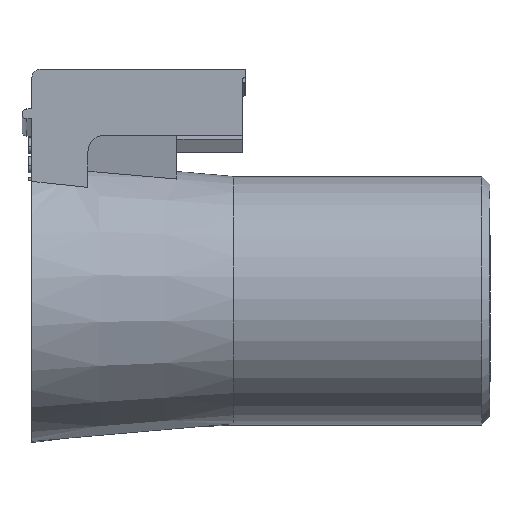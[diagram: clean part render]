
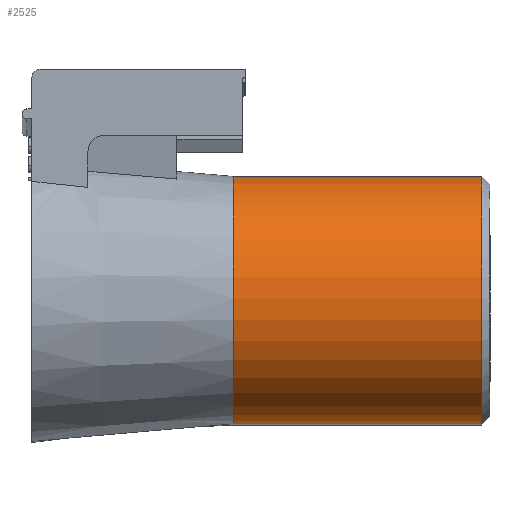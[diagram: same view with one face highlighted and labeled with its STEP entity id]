
A CAD part, front view. The second image highlights one B-rep face of the part: STEP entity #2525.
In plain terms, the highlighted cylindrical face has radius 7.5 mm (diameter 15 mm), a partial arc.
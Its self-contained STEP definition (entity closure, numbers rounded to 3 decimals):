
#49=CYLINDRICAL_SURFACE('',#2692,7.5);
#93=CIRCLE('',#2670,7.5);
#101=CIRCLE('',#2691,7.5);
#358=FACE_OUTER_BOUND('',#499,.T.);
#499=EDGE_LOOP('',(#2334,#2335,#2336,#2337));
#661=LINE('',#4287,#882);
#684=LINE('',#4344,#905);
#882=VECTOR('',#3004,10.);
#905=VECTOR('',#3041,10.);
#1210=VERTEX_POINT('',#4284);
#1211=VERTEX_POINT('',#4286);
#1232=VERTEX_POINT('',#4334);
#1234=VERTEX_POINT('',#4343);
#1531=EDGE_CURVE('',#1211,#1210,#661,.T.);
#1558=EDGE_CURVE('',#1234,#1232,#684,.T.);
#1601=EDGE_CURVE('',#1234,#1210,#93,.T.);
#1627=EDGE_CURVE('',#1211,#1232,#101,.T.);
#2334=ORIENTED_EDGE('',*,*,#1558,.T.);
#2335=ORIENTED_EDGE('',*,*,#1627,.F.);
#2336=ORIENTED_EDGE('',*,*,#1531,.T.);
#2337=ORIENTED_EDGE('',*,*,#1601,.F.);
#2525=ADVANCED_FACE('',(#358),#49,.T.);
#2670=AXIS2_PLACEMENT_3D('',#4436,#3148,#3149);
#2691=AXIS2_PLACEMENT_3D('',#4491,#3205,#3206);
#2692=AXIS2_PLACEMENT_3D('',#4492,#3207,#3208);
#3004=DIRECTION('',(-1.,0.,0.));
#3041=DIRECTION('',(1.,0.,0.));
#3148=DIRECTION('center_axis',(-1.,0.,0.));
#3149=DIRECTION('ref_axis',(0.,-1.,0.));
#3205=DIRECTION('center_axis',(1.,0.,0.));
#3206=DIRECTION('ref_axis',(0.,1.,0.));
#3207=DIRECTION('center_axis',(-1.,0.,0.));
#3208=DIRECTION('ref_axis',(0.,-1.,0.));
#4284=CARTESIAN_POINT('',(11.43,0.,7.5));
#4286=CARTESIAN_POINT('',(26.5,0.,7.5));
#4287=CARTESIAN_POINT('',(19.215,0.,7.5));
#4334=CARTESIAN_POINT('',(26.5,-0.184,-7.498));
#4343=CARTESIAN_POINT('',(11.43,-0.184,-7.498));
#4344=CARTESIAN_POINT('',(19.215,-0.184,-7.498));
#4436=CARTESIAN_POINT('Origin',(11.43,0.,
0.));
#4491=CARTESIAN_POINT('Origin',(26.5,0.,
0.));
#4492=CARTESIAN_POINT('Origin',(19.215,0.,
0.));
